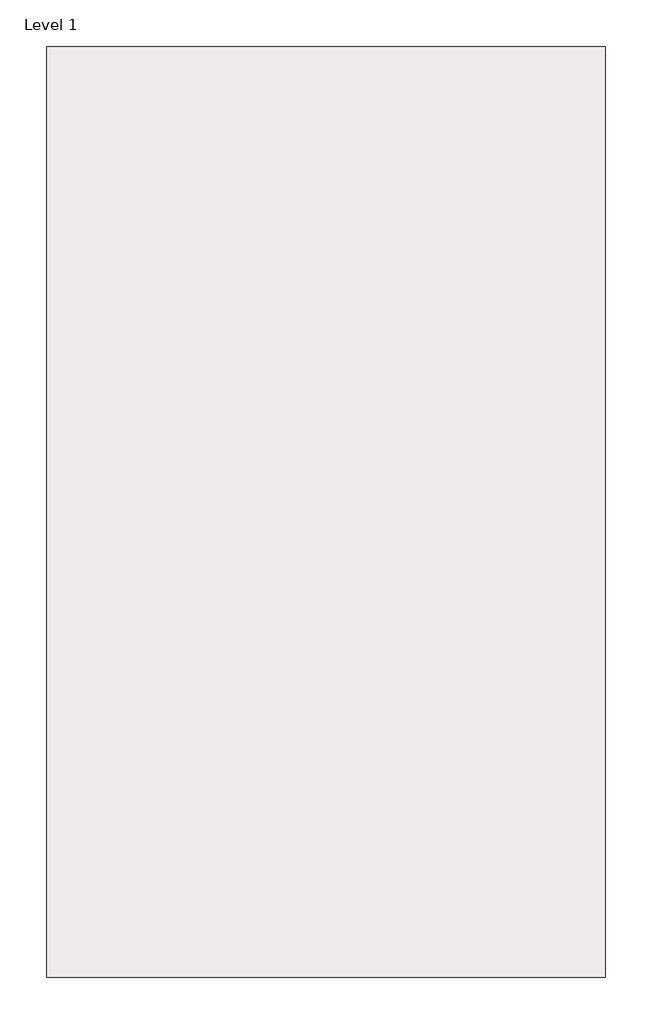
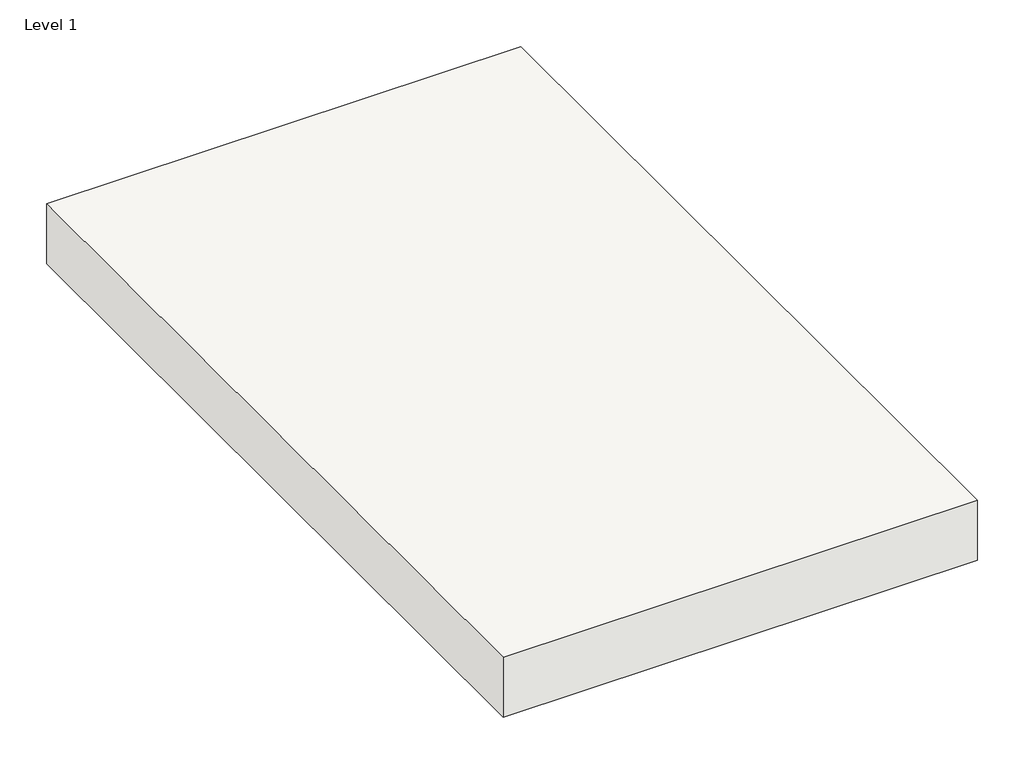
# One storey: 1 slab.
"""IFC4 building model written with IfcOpenShell, lengths in millimetres."""

from ifc_helpers import new_model, si_unit, frame, origin, place, context, project, spatial, polyline, outline, extrude, element, save

model = new_model("IFC4")

# Units and contexts
model_context = context("Model", 3, world=origin())
ifc_project = project(units=[si_unit("LENGTHUNIT", "METRE", prefix="MILLI")], contexts=[model_context])

# Site, building, storey
site = spatial("IfcSite", under=ifc_project)
building = spatial("IfcBuilding", under=site)
storey = spatial("IfcBuildingStorey", under=building, Name="Level 1", Elevation=0.0)

# Slab
placement = place(None, origin())
element("IfcSlab", 1, ObjectType="WN775A", at=placement, inside=storey, context=model_context, shape_type="SweptSolid", body=[
    extrude(outline(polyline([(2747.4282268, 3623.6822678), (2747.4282268, 575.6822678), (918.6282268, 575.6822678), (918.6282268, 3623.6822678), (2747.4282268, 3623.6822678)])), frame((0.0, 0.0, -245.26875), z_axis=(0.0, 0.0, 1.0), x_axis=(1.0, 0.0, 0.0)), (0.0, 0.0, 1.0), 245.26875),
])

save(model, "model.ifc")
